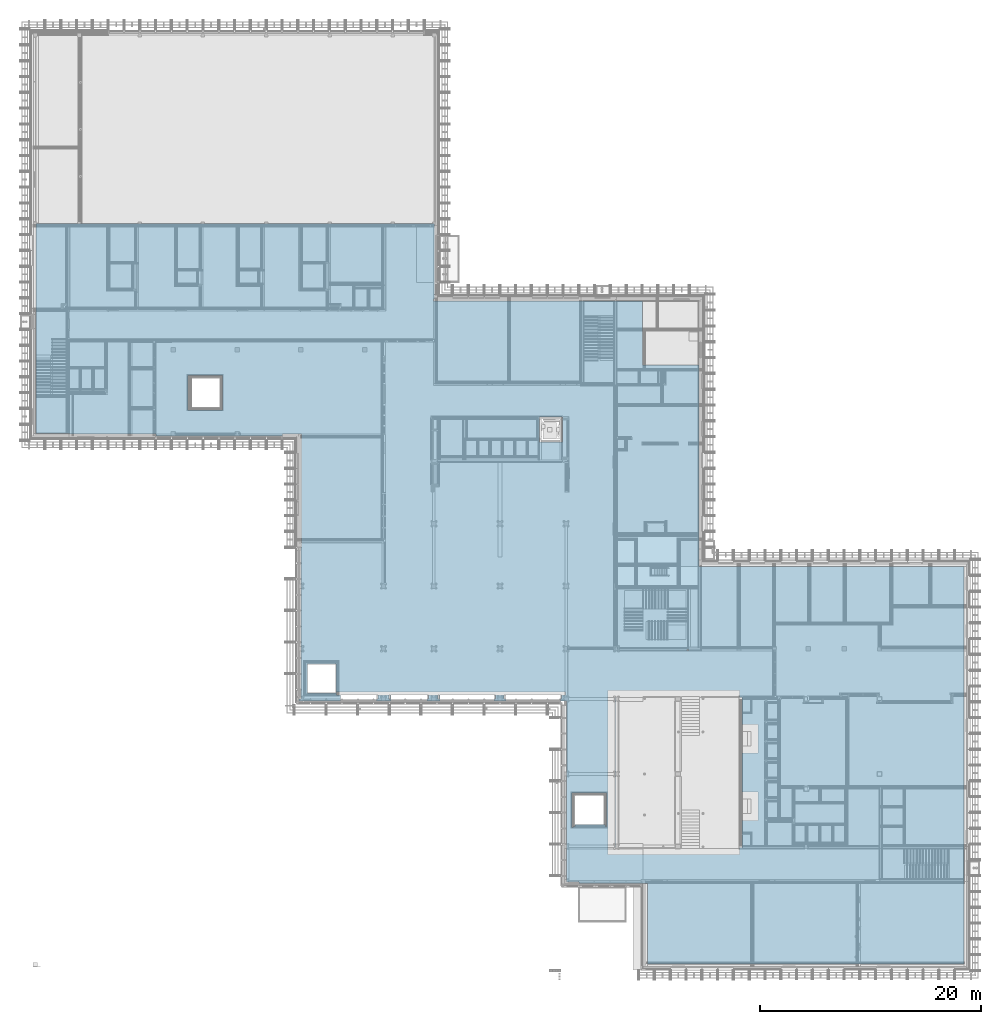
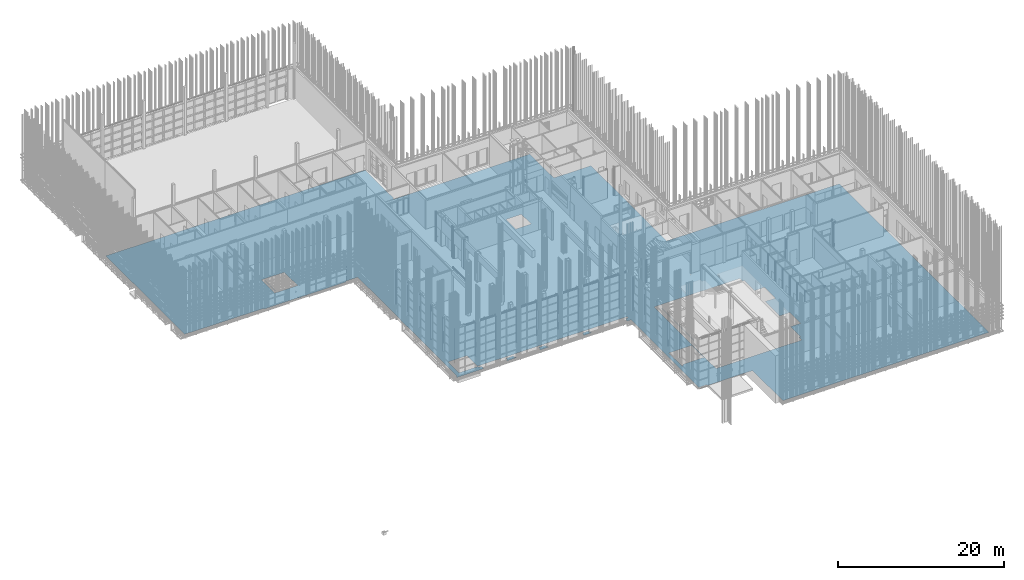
# One storey, part 166 of 260: 1 building element part, 1 element without a shape of its own.
"""IFC2X3 building model written with IfcOpenShell, lengths in millimetres."""

from ifc_helpers import new_model, entity, si_unit, converted_unit, derived_unit, money_unit, direction, frame, origin_with_axes, place, context, subcontext, project, spatial, faceted_brep, material, type_object, element, aggregate, save


model = new_model("IFC2X3")

# Units and contexts
model_context = context("Model", 3, precision=0.01, world=origin_with_axes(), true_north=direction((0.0, 1.0)))
body_context = subcontext(model_context, "Body", "Model", "MODEL_VIEW")
ifc_project = project(units=[si_unit("LENGTHUNIT", "METRE", prefix="MILLI"), si_unit("AREAUNIT", "SQUARE_METRE"), si_unit("VOLUMEUNIT", "CUBIC_METRE"), converted_unit("PLANEANGLEUNIT", "DEGREE", entity("IfcPlaneAngleMeasure", 0.0174532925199), si_unit("PLANEANGLEUNIT", "RADIAN"), dimensions=[0, 0, 0, 0, 0, 0, 0]), money_unit("EUR"), converted_unit("TIMEUNIT", "Year", entity("IfcTimeMeasure", 31556926.0), si_unit("TIMEUNIT", "SECOND"), dimensions=[0, 0, 1, 0, 0, 0, 0]), si_unit("MASSUNIT", "GRAM", prefix="KILO"), si_unit("THERMODYNAMICTEMPERATUREUNIT", "DEGREE_CELSIUS"), si_unit("LUMINOUSINTENSITYUNIT", "LUMEN"), si_unit("ENERGYUNIT", "JOULE", prefix="MEGA"), derived_unit("THERMALCONDUCTANCEUNIT", [(si_unit("POWERUNIT", "WATT"), 1), (si_unit("LENGTHUNIT", "METRE"), -1), (si_unit("THERMODYNAMICTEMPERATUREUNIT", "KELVIN"), -1)]), derived_unit("SPECIFICHEATCAPACITYUNIT", [(si_unit("ENERGYUNIT", "JOULE"), 1), (si_unit("MASSUNIT", "GRAM", prefix="KILO"), -1), (si_unit("THERMODYNAMICTEMPERATUREUNIT", "KELVIN"), -1)]), derived_unit("MASSDENSITYUNIT", [(si_unit("MASSUNIT", "GRAM", prefix="KILO"), 1), (si_unit("VOLUMEUNIT", "CUBIC_METRE"), -1)])], contexts=[model_context])

# Site, building, storey
site_placement = place(None, origin_with_axes())
site = spatial("IfcSite", under=ifc_project, at=site_placement, Name="Kolde pst 67a", CompositionType="ELEMENT")
building_placement = place(site_placement, origin_with_axes())
building = spatial("IfcBuilding", under=site, at=building_placement, Name="Riigigümnaasium", CompositionType="ELEMENT")
storey_placement = place(building_placement, origin_with_axes())
storey = spatial("IfcBuildingStorey", under=building, at=storey_placement, Name="1. korrus", CompositionType="ELEMENT", Elevation=0.0)

# Slab, building element part
slab_type = type_object("IfcSlabType", Name="PP-RBM-10/1_EPS 200 500", PredefinedType="NOTDEFINED")
slab_placement = place(storey_placement, frame((266.322784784, 67249.9971514, 0.0), z_axis=(0.0, 0.0, 1.0), x_axis=(1.0, 0.0, 0.0)))
slab = element("IfcSlab", 1, at=slab_placement, inside=storey, type_object=slab_type, Name="Põrand pinnasel", PredefinedType="NOTDEFINED")
ifc_material = material(Name="_ERALDUSKIHT - radoonitõkkekile/-membraan LEKU 280g/m² või samaväärne")
building_element_part_placement = place(slab_placement, origin_with_axes())
building_element_part = element("IfcBuildingElementPart", 2, at=building_element_part_placement, material=ifc_material, Name="_ERALDUSKIHT - radoonitõkkekile/-membraan LEKU 280g/m² või samaväärne", context=body_context, shape_type="Brep", body=[
    faceted_brep([(27381.5095656, -43000.0189812, -200.2), (27531.5095656, -43000.0206928, -200.2), (27531.5095656, -42650.2966921, -200.2), (27557.7759921, -42650.2966876, -200.2), (27557.7759921, -43209.7267572, -200.2), (23799.9457899, -43209.7267572, -200.2), (23799.9460972, -42999.9781126, -200.2), (23973.6799494, -42999.980095, -200.2), (23973.6799494, -29299.5005252, -200.2), (23999.9463759, -29299.500562, -200.2), (23999.9463759, -19050.0166275, -200.2), (22288.5650026, -19050.0163206, -200.2), (22288.5650026, -19210.0163206, -200.2), (10868.5385943, -19210.0163206, -200.2), (10868.5385943, -19050.0164764, -200.2), (2999.88406448, -19050.0165838, -200.2), (2999.88406628, -19009.9992035, -200.2), (0.0, -19010.7371507, -200.2), (0.0, 0.0, -200.2), (36039.9429015, 0.0, -200.2), (36039.9416319, -6809.99696703, -200.2), (35973.6764556, -6809.99696703, -200.2), (35973.6764556, -7009.99696703, -200.2), (54850.6592908, -7009.99696703, -200.2), (54850.6592908, -12479.9970931, -200.2), (54850.6592908, -12729.9970931, -200.2), (54876.9257173, -12729.9970931, -200.2), (54876.9257173, -12779.9970931, -200.2), (59999.9377357, -12779.9970931, -200.2), (59999.9377357, -31009.9974516, -200.2), (83973.6765431, -31009.9974516, -200.2), (83973.6765431, -67009.9971514, -200.2), (55329.9241436, -67009.9971514, -200.2), (55329.9251795, -59729.9852703, -200.2), (49105.2284207, -59729.9962674, -200.2), (49105.2303604, -59560.0076119, -200.2), (47983.4761046, -59559.9948118, -200.2), (47983.6626713, -43209.9991185, -200.2), (47799.9291214, -43209.9971514, -200.2), (47436.9477703, -43209.9971514, -200.2), (47436.9477703, -42989.9933365, -200.2), (47560.6775752, -42989.9947483, -200.2), (47560.6814514, -42650.2966876, -200.2), (47902.308394, -42650.2966921, -200.2), (47902.308394, -42400.2966901, -200.2), (27168.5095656, -42400.2966901, -200.2), (27168.5095656, -42649.7267552, -200.2), (27531.5095656, -42649.7267552, -200.2), (27531.5095656, -42650.2966921, -200.2), (27381.5095656, -42650.2966921, -200.2), (58908.7339847, -38555.9974954, -200.2), (58908.7339847, -38629.9974954, -200.2), (59013.7339847, -38629.9974954, -200.2), (59013.7339847, -38555.9974954, -200.2), (65314.8582851, -51438.751896, -200.2), (63889.4804024, -51438.7884356, -200.2), (63889.4798078, -47921.1981075, -200.2), (65314.7526011, -47921.1553125, -200.2), (65314.6749861, -45338.6952481, -200.2), (63889.4797139, -45338.7380188, -200.2), (63889.4805108, -42900.0006175, -200.2), (63663.580611, -42899.9970244, -200.2), (63663.580611, -42258.7455562, -200.2), (51752.4198565, -42258.7455672, -200.2), (51752.4198565, -57111.2866668, -200.2), (63663.580611, -57111.286678, -200.2), (63663.580611, -56470.0352098, -200.2), (63889.4805108, -56470.0352098, -200.2), (63889.4805108, -54021.2845948, -200.2), (65314.9359654, -54021.2481243, -200.2), (51621.6670287, -51502.0161939, -200.2), (51611.6670287, -51502.0161939, -200.2), (48485.6670287, -51502.0161939, -200.2), (48475.6670287, -51502.0161939, -200.2), (48475.6670287, -54648.0161939, -200.2), (48485.6670287, -54648.0161939, -200.2), (48485.6670287, -54638.0161939, -200.2), (48585.6670287, -54638.0161939, -200.2), (48585.6670287, -54538.0161939, -200.2), (48588.6670287, -54538.0161939, -200.2), (48588.6670287, -54535.0161939, -200.2), (48748.6670287, -54535.0161939, -200.2), (48748.6670287, -51775.0161939, -200.2), (48774.9334552, -51775.0161939, -200.2), (48774.9334552, -54375.0161939, -200.2), (51374.9334552, -54375.0161939, -200.2), (51508.6670287, -54375.0161939, -200.2), (51508.6670287, -54535.0161939, -200.2), (51511.6670287, -54535.0161939, -200.2), (51511.6670287, -54538.0161939, -200.2), (51611.6670287, -54538.0161939, -200.2), (51611.6670287, -54638.0161939, -200.2), (51621.6670287, -54638.0161939, -200.2), (45534.9291024, -19779.9971915, -200.2), (47634.9291054, -19779.9971915, -200.2), (47634.9291054, -17479.9971915, -200.2), (45534.9291024, -17479.9971915, -200.2), (16871.6777342, -13742.0095232, -200.2), (16861.6777342, -13742.0095232, -200.2), (13735.6777342, -13742.0095232, -200.2), (13725.6777342, -13742.0095232, -200.2), (13725.6777342, -16888.0095232, -200.2), (13735.6777342, -16888.0095232, -200.2), (16871.6777342, -16888.0095232, -200.2), (16871.6777342, -16878.0095232, -200.2), (27150.0004112, -42459.9971514, -200.2), (27150.0004112, -39859.9971514, -200.2), (24550.0004112, -39859.9971514, -200.2), (24550.0004112, -42459.9971514, -200.2), (27381.5095656, -43000.0189812, -200.099988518), (27531.5095656, -43000.0206928, -200.099988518), (27531.5095656, -42650.2966921, -200.1), (27557.7759921, -42650.2966876, -200.1), (27557.7759921, -43209.7267572, -200.1), (23799.9457899, -43209.7267572, -200.1), (23799.9460972, -42999.9781126, -200.1), (23973.6799494, -42999.980095, -200.1), (23973.6799494, -29299.5005252, -200.1), (23999.9463759, -29299.500562, -200.1), (23999.9463759, -19050.0166275, -200.1), (22288.5650026, -19050.0163206, -200.1), (22288.5650026, -19210.0163206, -200.1), (10868.5385943, -19210.0163206, -200.1), (10868.5385943, -19050.0164764, -200.1), (2999.88406448, -19050.0165838, -200.1), (2999.88406628, -19009.9992035, -200.1), (0.0, -19010.7371507, -200.1), (0.0, 0.0, -200.1), (36039.9429015, 0.0, -200.1), (36039.9416319, -6809.99696703, -200.1), (35973.6764556, -6809.99696703, -200.1), (35973.6764556, -7009.99696703, -200.1), (54850.6592908, -7009.99696703, -200.1), (54850.6592908, -12479.9970931, -200.1), (54850.6592908, -12729.9970931, -200.1), (54876.9257173, -12729.9970931, -200.1), (54876.9257173, -12779.9970931, -200.1), (59999.9377357, -12779.9970931, -200.1), (59999.9377357, -31009.9974516, -200.1), (83973.6765431, -31009.9974516, -200.1), (83973.6765431, -67009.9971514, -200.1), (55329.9241436, -67009.9971514, -200.1), (55329.9251795, -59729.9852703, -200.1), (49105.2284207, -59729.9962674, -200.1), (49105.2303604, -59560.0076119, -200.1), (47983.4761046, -59559.9948118, -200.1), (47983.6626713, -43209.9991185, -200.1), (47799.9291214, -43209.9971514, -200.1), (47436.9477703, -43209.9971514, -200.1), (47436.9477703, -42989.9933365, -200.1), (47560.6775752, -42989.9947483, -200.1), (47560.6814514, -42650.2966876, -200.1), (47902.308394, -42650.2966921, -200.1), (47902.308394, -42550.2966907, -200.099988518), (47902.308394, -42400.2966901, -200.099988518), (27168.5095656, -42400.2966901, -200.099988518), (27168.5095656, -42649.7267552, -200.1), (27531.5095656, -42649.7267552, -200.1), (27531.5095656, -42650.2966921, -200.1), (27381.5095656, -42650.2966921, -200.099988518), (58908.7339847, -38555.9974954, -200.1), (58908.7339847, -38629.9974954, -200.1), (59013.7339847, -38629.9974954, -200.1), (59013.7339847, -38555.9974954, -200.1), (65314.9582467, -51438.6519288, -200.1), (63889.4804024, -51438.6884709, -200.1), (63889.4798078, -47921.2980722, -200.1), (65314.8525688, -47921.2552742, -200.1), (65314.7749478, -45338.5952805, -200.1), (63889.479714, -45338.6380541, -200.1), (63889.4805108, -42900.0006175, -200.1), (63663.580611, -42899.9970244, -200.1), (63663.580611, -42258.6455916, -200.1), (51752.3198919, -42258.6456025, -200.1), (51752.3198919, -57111.3866315, -200.1), (63663.580611, -57111.3866426, -200.1), (63663.580611, -56470.0352098, -200.1), (63889.4805108, -56470.0352098, -200.1), (63889.4805108, -54021.3845595, -200.1), (65315.0359331, -54021.3480864, -200.1), (51621.6670287, -51502.0161939, -200.1), (51611.6670287, -51502.0161939, -200.1), (48485.6670287, -51502.0161939, -200.1), (48475.6670287, -51502.0161939, -200.1), (48475.6670287, -54648.0161939, -200.1), (48485.6670287, -54648.0161939, -200.1), (48485.6670287, -54638.0161939, -200.1), (48585.6670287, -54638.0161939, -200.1), (48585.6670287, -54538.0161939, -200.1), (48588.6670287, -54538.0161939, -200.1), (48588.6670287, -54535.0161939, -200.1), (48748.6670287, -54535.0161939, -200.1), (48748.6670287, -51775.0161939, -200.1), (48774.9334552, -51775.0161939, -200.1), (48774.9334552, -54375.0161939, -200.1), (51374.9334552, -54375.0161939, -200.1), (51508.6670287, -54375.0161939, -200.1), (51508.6670287, -54535.0161939, -200.1), (51511.6670287, -54535.0161939, -200.1), (51511.6670287, -54538.0161939, -200.1), (51611.6670287, -54538.0161939, -200.1), (51611.6670287, -54638.0161939, -200.1), (51621.6670287, -54638.0161939, -200.1), (45534.9291024, -19779.9971915, -200.1), (47634.9291054, -19779.9971915, -200.1), (47634.9291054, -17479.9971915, -200.1), (45534.9291024, -17479.9971915, -200.1), (16871.6777342, -13742.0095232, -200.1), (16861.6777342, -13742.0095232, -200.1), (13735.6777342, -13742.0095232, -200.1), (13725.6777342, -13742.0095232, -200.1), (13725.6777342, -16888.0095232, -200.1), (13735.6777342, -16888.0095232, -200.1), (16871.6777342, -16888.0095232, -200.1), (16871.6777342, -16878.0095232, -200.1), (27150.0004112, -42459.9971514, -200.1), (27150.0004112, -39859.9971514, -200.1), (24550.0004112, -39859.9971514, -200.1), (24550.0004112, -42459.9971514, -200.1)], [[[0, 1, 2, 3, 4, 5, 6, 7, 8, 9, 10, 11, 12, 13, 14, 15, 16, 17, 18, 19, 20, 21, 22, 23, 24, 25, 26, 27, 28, 29, 30, 31, 32, 33, 34, 35, 36, 37, 38, 39, 40, 41, 42, 43, 44, 45, 46, 47, 48, 49], [50, 51, 52, 53], [54, 55, 56, 57, 58, 59, 60, 61, 62, 63, 64, 65, 66, 67, 68, 69], [70, 71, 72, 73, 74, 75, 76, 77, 78, 79, 80, 81, 82, 83, 84, 85, 86, 87, 88, 89, 90, 91, 92], [93, 94, 95, 96], [97, 98, 99, 100, 101, 102, 103, 104], [105, 106, 107, 108]], [[109, 110, 1, 0]], [[110, 111, 2, 1]], [[2, 111, 112, 3]], [[4, 3, 112, 113]], [[5, 4, 113, 114]], [[6, 5, 114, 115]], [[7, 6, 115, 116]], [[7, 116, 117, 8]], [[9, 8, 117, 118]], [[10, 9, 118, 119]], [[11, 10, 119, 120]], [[12, 11, 120, 121]], [[13, 12, 121, 122]], [[14, 13, 122, 123]], [[15, 14, 123, 124]], [[16, 15, 124, 125]], [[17, 16, 125, 126]], [[17, 126, 127, 18]], [[18, 127, 128, 19]], [[20, 19, 128, 129]], [[21, 20, 129, 130]], [[22, 21, 130, 131]], [[23, 22, 131, 132]], [[24, 23, 132, 133]], [[25, 24, 133, 134]], [[26, 25, 134, 135]], [[27, 26, 135, 136]], [[28, 27, 136, 137]], [[29, 28, 137, 138]], [[30, 29, 138, 139]], [[140, 31, 30, 139]], [[32, 31, 140, 141]], [[33, 32, 141, 142]], [[143, 34, 33, 142]], [[35, 34, 143, 144]], [[36, 35, 144, 145]], [[36, 145, 146, 37]], [[37, 146, 147, 38]], [[39, 38, 147, 148]], [[40, 39, 148, 149]], [[150, 41, 40, 149]], [[150, 151, 42, 41]], [[42, 151, 152, 43]], [[152, 153, 154, 44, 43]], [[44, 154, 155, 45]], [[46, 45, 155, 156]], [[46, 156, 157, 47]], [[47, 157, 158, 48]], [[158, 159, 49, 48]], [[159, 109, 0, 49]], [[51, 50, 160, 161]], [[52, 51, 161, 162]], [[53, 52, 162, 163]], [[50, 53, 163, 160]], [[55, 54, 164, 165]], [[55, 165, 166, 56]], [[167, 57, 56, 166]], [[58, 57, 167, 168]], [[59, 58, 168, 169]], [[60, 59, 169, 170]], [[61, 60, 170, 171]], [[62, 61, 171, 172]], [[63, 62, 172, 173]], [[174, 64, 63, 173]], [[65, 64, 174, 175]], [[66, 65, 175, 176]], [[67, 66, 176, 177]], [[68, 67, 177, 178]], [[69, 68, 178, 179]], [[69, 179, 164, 54]], [[71, 70, 180, 181]], [[72, 71, 181, 182]], [[73, 72, 182, 183]], [[184, 74, 73, 183]], [[75, 74, 184, 185]], [[76, 75, 185, 186]], [[77, 76, 186, 187]], [[78, 77, 187, 188]], [[79, 78, 188, 189]], [[80, 79, 189, 190]], [[81, 80, 190, 191]], [[82, 81, 191, 192]], [[83, 82, 192, 193]], [[84, 83, 193, 194]], [[85, 84, 194, 195]], [[86, 85, 195, 196]], [[87, 86, 196, 197]], [[88, 87, 197, 198]], [[199, 89, 88, 198]], [[90, 89, 199, 200]], [[91, 90, 200, 201]], [[92, 91, 201, 202]], [[92, 202, 180, 70]], [[94, 93, 203, 204]], [[95, 94, 204, 205]], [[96, 95, 205, 206]], [[203, 93, 96, 206]], [[98, 97, 207, 208]], [[99, 98, 208, 209]], [[100, 99, 209, 210]], [[211, 101, 100, 210]], [[102, 101, 211, 212]], [[103, 102, 212, 213]], [[103, 213, 214, 104]], [[97, 104, 214, 207]], [[106, 105, 215, 216]], [[107, 106, 216, 217]], [[108, 107, 217, 218]], [[105, 108, 218, 215]], [[109, 159, 158, 157, 156, 155, 154, 153, 152, 151, 150, 149, 148, 147, 146, 145, 144, 143, 142, 141, 140, 139, 138, 137, 136, 135, 134, 133, 132, 131, 130, 129, 128, 127, 126, 125, 124, 123, 122, 121, 120, 119, 118, 117, 116, 115, 114, 113, 112, 111, 110], [162, 161, 160, 163], [168, 167, 166, 165, 164, 179, 178, 177, 176, 175, 174, 173, 172, 171, 170, 169], [183, 182, 181, 180, 202, 201, 200, 199, 198, 197, 196, 195, 194, 193, 192, 191, 190, 189, 188, 187, 186, 185, 184], [204, 203, 206, 205], [208, 207, 214, 213, 212, 211, 210, 209], [215, 218, 217, 216]]]),
    faceted_brep([(31926.6750961, -42650.2966876, -200.2), (31926.6750961, -42650.2966876, -200.1), (31926.6750961, -43000.0708452, -200.1), (31926.6750961, -43000.0708452, -200.2), (30940.6848933, -42650.2966876, -200.1), (30940.6848933, -42650.2966876, -200.2), (32102.9415226, -42650.2966876, -200.1), (32076.6750961, -42650.2966876, -200.1), (32076.6750961, -43000.0725568, -200.1), (30940.6848933, -43000.0595942, -200.1), (30816.9513198, -43000.0581823, -200.1), (30816.9513198, -43209.7267557, -200.1), (32102.9415226, -43209.7267557, -200.1), (32076.6750961, -43000.0725568, -200.2), (32076.6750961, -42650.2966876, -200.2), (32102.9415226, -42650.2966876, -200.2), (32102.9415226, -43209.7267557, -200.2), (30816.9513198, -43209.7267557, -200.2), (30816.9513198, -43000.0581823, -200.2), (30940.6848933, -43000.0595942, -200.2)], [[[0, 1, 2, 3]], [[4, 1, 0, 5]], [[6, 7, 8, 2, 1, 4, 9, 10, 11, 12]], [[3, 2, 8, 13]], [[14, 15, 16, 17, 18, 19, 5, 0, 3, 13]], [[4, 5, 19, 9]], [[7, 6, 15, 14]], [[7, 14, 13, 8]], [[18, 10, 9, 19]], [[17, 11, 10, 18]], [[17, 16, 12, 11]], [[15, 6, 12, 16]]]),
    faceted_brep([(36356.6715466, -42650.2966876, -200.2), (36356.6715466, -42650.2966876, -200.1), (36356.6715466, -43000.1213951, -200.1), (36356.6715466, -43000.1213951, -200.2), (35490.6813438, -42650.2966876, -200.1), (35490.6813438, -42650.2966876, -200.2), (36532.9379731, -42650.2966876, -200.1), (36506.6715466, -42650.2966876, -200.1), (36506.6715466, -43000.1231067, -200.1), (35490.6813438, -43000.1115134, -200.1), (35366.9477703, -43000.1101015, -200.1), (35366.9477703, -43209.7267557, -200.1), (36532.9379731, -43209.7267557, -200.1), (36506.6715466, -43000.1231067, -200.2), (36506.6715466, -42650.2966876, -200.2), (36532.9379731, -42650.2966876, -200.2), (36532.9379731, -43209.7267557, -200.2), (35366.9477703, -43209.7267557, -200.2), (35366.9477703, -43000.1101015, -200.2), (35490.6813438, -43000.1115134, -200.2)], [[[0, 1, 2, 3]], [[4, 1, 0, 5]], [[6, 7, 8, 2, 1, 4, 9, 10, 11, 12]], [[3, 2, 8, 13]], [[14, 15, 16, 17, 18, 19, 5, 0, 3, 13]], [[4, 5, 19, 9]], [[7, 6, 15, 14]], [[7, 14, 13, 8]], [[19, 18, 10, 9]], [[11, 10, 18, 17]], [[16, 12, 11, 17]], [[15, 6, 12, 16]]]),
    faceted_brep([(42354.6715466, -42650.2966876, -200.2), (42354.6715466, -42650.2966876, -200.1), (42354.6715466, -43000.1898371, -200.1), (42354.6715466, -43000.1898371, -200.2), (41560.6813438, -42650.2966876, -200.1), (41560.6813438, -42650.2966876, -200.2), (42530.9379731, -42650.2966876, -200.1), (42504.6715466, -42650.2966876, -200.1), (42504.6715466, -43000.1915488, -200.1), (41560.6813438, -43000.1807771, -200.1), (41436.9477703, -43000.1793652, -200.1), (41436.9477703, -43209.9971514, -200.1), (42530.9379731, -43209.9971514, -200.1), (42504.6715466, -43000.1915488, -200.2), (42504.6715466, -42650.2966876, -200.2), (42530.9379731, -42650.2966876, -200.2), (42530.9379731, -43209.9971514, -200.2), (41436.9477703, -43209.9971514, -200.2), (41436.9477703, -43000.1793652, -200.2), (41560.6813438, -43000.1807771, -200.2)], [[[0, 1, 2, 3]], [[4, 1, 0, 5]], [[6, 7, 8, 2, 1, 4, 9, 10, 11, 12]], [[3, 2, 8, 13]], [[14, 15, 16, 17, 18, 19, 5, 0, 3, 13]], [[4, 5, 19, 9]], [[7, 6, 15, 14]], [[7, 14, 13, 8]], [[18, 10, 9, 19]], [[17, 11, 10, 18]], [[16, 12, 11, 17]], [[15, 6, 12, 16]]]),
    faceted_brep([(52393.6713209, -56470.0352098, -200.099999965), (52419.9377639, -56470.0352098, -200.1), (52419.9377639, -42899.9970244, -200.1), (52393.6713209, -42899.9970244, -200.099999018), (52419.9377639, -56470.0352098, -200.2), (52393.6713209, -56470.0352098, -200.199999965), (52419.9377639, -42899.9970244, -200.2), (52393.6713209, -42899.9970244, -200.199999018)], [[[0, 1, 2, 3]], [[4, 1, 0, 5]], [[1, 4, 6, 2]], [[7, 3, 2, 6]], [[5, 0, 3, 7]], [[4, 5, 7, 6]]]),
    faceted_brep([(14024.9441607, -14015.0095232, -200.2), (14024.9441607, -14015.0095232, -200.1), (14024.9441607, -16615.0095232, -200.1), (14024.9441607, -16615.0095232, -200.2), (13998.6777342, -14015.0095232, -200.1), (13998.6777342, -14015.0095232, -200.2), (13998.6777342, -16615.0095232, -200.1), (13998.6777342, -16615.0095232, -200.2)], [[[0, 1, 2, 3]], [[4, 1, 0, 5]], [[1, 4, 6, 2]], [[6, 7, 3, 2]], [[5, 0, 3, 7]], [[4, 5, 7, 6]]]),
])
aggregate(slab, [building_element_part])

save(model, "model.ifc")
